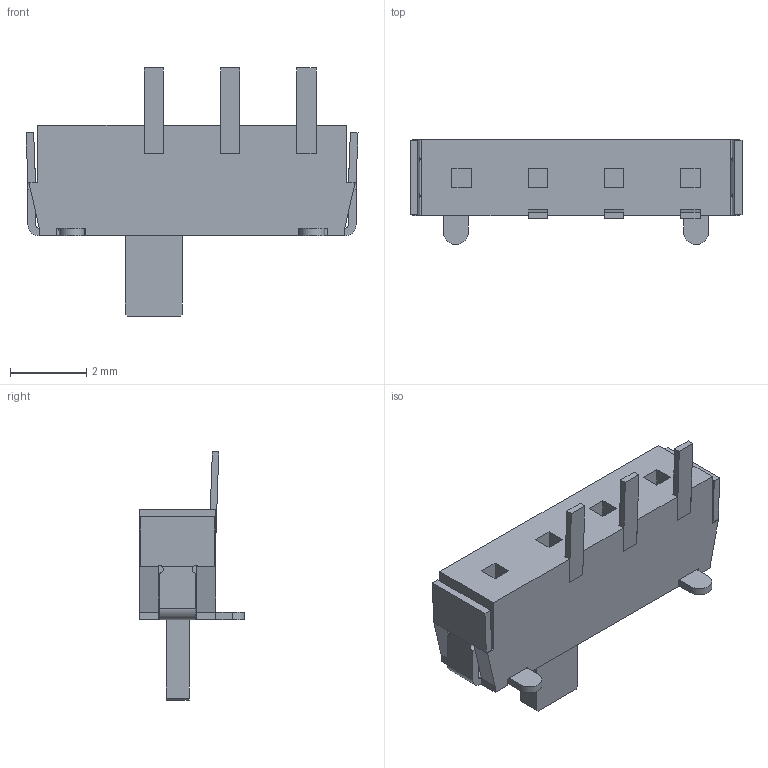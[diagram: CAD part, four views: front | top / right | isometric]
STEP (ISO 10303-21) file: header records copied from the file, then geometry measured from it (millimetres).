
FILE_DESCRIPTION (( 'STEP AP214' ), '1' );
FILE_NAME ('Same_Sky_SLW-88229-2-SMT-TR.step', '2025-11-02T18:17:05', ( '' ), ( '' ), 'SwSTEP 2.0', 'SolidWorks 2025', '' );
FILE_SCHEMA (( 'AUTOMOTIVE_DESIGN' ));
Length unit declared in the file: millimetre
Products named in the file (1): Same_Sky_SLW-88229-2-SMT-TR
Bounding box: 8.7 x 2.75 x 6.5 mm (x, y, z)
Volume: 42.1 mm3; surface area: 210.8 mm2
Topology: 6 solids, 6 shells, 203 faces, 553 edges, 367 vertices
Faces by surface type: plane 160, cylinder 37, bspline 6
Entity records: 7564 total; most frequent: CARTESIAN_POINT 1256, ORIENTED_EDGE 1106, DIRECTION 993, EDGE_CURVE 553, LINE 459, VECTOR 459, VERTEX_POINT 367, AXIS2_PLACEMENT_3D 267
